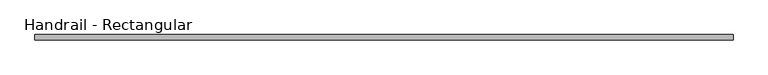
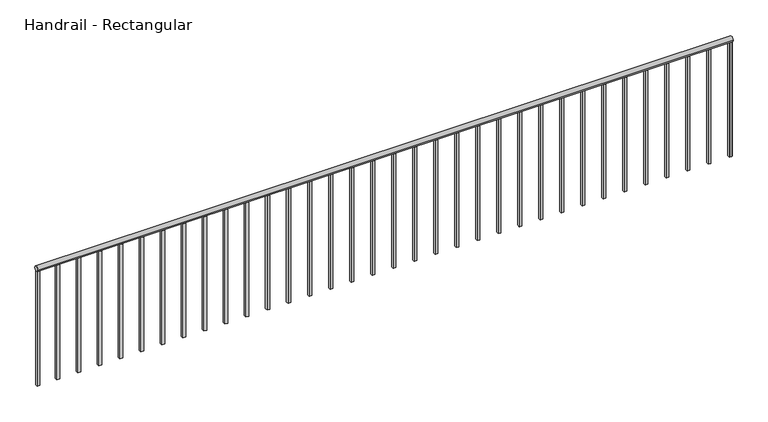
"""IFC4 building model written with IfcOpenShell, lengths in millimetres: railing geometry, Handrail - Rectangular."""

import ifcopenshell
import ifcopenshell.guid

model = None  # the IFC model being written
_history = None  # IfcOwnerHistory: only IFC2X3 demands one
_inside = {}  # id of a spatial element -> (the spatial element, [elements in it])
_under = {}  # id of a project, library or spatial element -> (it, [spatial elements below it])
_declared = {}  # id of a project -> (the project, [libraries it declares])
_typed = {}  # id of a type object -> (the type object, [elements of that type])
_made_of = {}  # id of a material, layer set ... -> (it, [elements and type objects made of it])


def new_model(schema):
    """Start an empty IFC model of exactly this schema.

    Asked for "IFC4X3", IfcOpenShell would pick the latest addendum, in which some entities
    have other attributes; the version numbers below select the first issue.
    IFC2X3 requires an IfcOwnerHistory on every rooted entity: one is made here for all.
    """
    global model, _history
    if schema == "IFC4X3":
        model = ifcopenshell.file(schema_version=(4, 3, 0, 0))
    else:
        model = ifcopenshell.file(schema=schema)
    _inside.clear()
    _under.clear()
    _declared.clear()
    _typed.clear()
    _made_of.clear()
    _history = None
    if model.schema == "IFC2X3":
        org = make("IfcOrganization", Name="unknown")
        user = make(
            "IfcPersonAndOrganization",
            ThePerson=make("IfcPerson", FamilyName="unknown"),
            TheOrganization=org,
        )
        app = make(
            "IfcApplication",
            ApplicationDeveloper=org,
            Version="unknown",
            ApplicationFullName="unknown",
            ApplicationIdentifier="unknown",
        )
        _history = make(
            "IfcOwnerHistory",
            OwningUser=user,
            OwningApplication=app,
            ChangeAction="ADDED",
            CreationDate=0,
        )
    return model


def make(cls, **values):
    """One entity of the class cls with the attributes given. An attribute that is None is left unset."""
    return model.create_entity(
        cls, **{name: value for name, value in values.items() if value is not None}
    )


def rooted(cls, **values):
    """An entity with a GlobalId (a new one), such as an element, a storey or a relation."""
    return make(cls, GlobalId=ifcopenshell.guid.new(), OwnerHistory=_history, **values)


def si_unit(unit_type, name, prefix=None):
    """IfcSIUnit, for example si_unit("LENGTHUNIT", "METRE", prefix="MILLI")."""
    return make("IfcSIUnit", UnitType=unit_type, Prefix=prefix, Name=name)


def assignment(units):
    """IfcUnitAssignment: the units of a project."""
    return None if units is None else make("IfcUnitAssignment", Units=units)


def point(xyz):
    """IfcCartesianPoint."""
    return None if xyz is None else make("IfcCartesianPoint", Coordinates=xyz)


def direction(xyz):
    """IfcDirection."""
    return None if xyz is None else make("IfcDirection", DirectionRatios=xyz)


def frame(location, z_axis=None, x_axis=None):
    """IfcAxis2Placement3D, a coordinate frame: its origin and axes. An axis left out is left unset."""
    return make(
        "IfcAxis2Placement3D",
        Location=point(location),
        Axis=direction(z_axis),
        RefDirection=direction(x_axis),
    )


def frame_2d(location, x_axis=None):
    """IfcAxis2Placement2D, a coordinate frame in the plane: its origin and x axis."""
    return make(
        "IfcAxis2Placement2D", Location=point(location), RefDirection=direction(x_axis)
    )


def origin():
    """The frame at (0, 0, 0) with its axes left unset."""
    return frame((0.0, 0.0, 0.0))


def place(relative_to, where):
    """IfcLocalPlacement: puts the frame where relative to a parent placement (None: the world)."""
    return make(
        "IfcLocalPlacement", PlacementRelTo=relative_to, RelativePlacement=where
    )


def context(
    kind, dimensions, precision=None, world=None, true_north=None, identifier=None
):
    """IfcGeometricRepresentationContext, for example the 3D "Model" context."""
    return make(
        "IfcGeometricRepresentationContext",
        ContextIdentifier=identifier,
        ContextType=kind,
        CoordinateSpaceDimension=dimensions,
        Precision=precision,
        WorldCoordinateSystem=world,
        TrueNorth=true_north,
    )


def project(units=None, contexts=None):
    """IfcProject with its units and contexts."""
    return rooted(
        "IfcProject",
        Name="project",
        RepresentationContexts=contexts,
        UnitsInContext=assignment(units),
    )


def spatial(cls, under=None, at=None, **own):
    """A site, building, storey or space (cls), placed at a placement, below another one or the project."""
    s = rooted(cls, ObjectPlacement=at, **own)
    if under is not None:
        _under.setdefault(under.id(), (under, []))[1].append(s)
    return s


def polyline(points):
    """IfcPolyline through the points."""
    return make("IfcPolyline", Points=[point(p) for p in points])


def circle_curve(where, radius):
    """IfcCircle in the frame where."""
    return make("IfcCircle", Position=where, Radius=radius)


def trimmed(basis, trim1, trim2, sense, master):
    """IfcTrimmedCurve: the piece of a basis curve between two trims."""
    return make(
        "IfcTrimmedCurve",
        BasisCurve=basis,
        Trim1=trim1,
        Trim2=trim2,
        SenseAgreement=sense,
        MasterRepresentation=master,
    )


def segment(curve, same_sense, transition):
    """IfcCompositeCurveSegment."""
    return make(
        "IfcCompositeCurveSegment",
        Transition=transition,
        SameSense=same_sense,
        ParentCurve=curve,
    )


def composite_curve(segments, self_intersect=None):
    """IfcCompositeCurve: segments joined end to end."""
    return make("IfcCompositeCurve", Segments=segments, SelfIntersect=self_intersect)


def outline(outer, holes=None, kind="AREA"):
    """IfcArbitraryClosedProfileDef: a profile drawn as a closed curve; with holes, ...WithVoids."""
    if holes is None:
        return make("IfcArbitraryClosedProfileDef", ProfileType=kind, OuterCurve=outer)
    return make(
        "IfcArbitraryProfileDefWithVoids",
        ProfileType=kind,
        OuterCurve=outer,
        InnerCurves=holes,
    )


def extrude(swept, where, along, depth):
    """IfcExtrudedAreaSolid: the profile swept, set in the frame where, extruded along a direction by depth."""
    return make(
        "IfcExtrudedAreaSolid",
        SweptArea=swept,
        Position=where,
        ExtrudedDirection=direction(along),
        Depth=depth,
    )


def shape(context_of_items, identifier, shape_type, items):
    """IfcShapeRepresentation: the items that make up one representation, for example the "Body"."""
    return make(
        "IfcShapeRepresentation",
        ContextOfItems=context_of_items,
        RepresentationIdentifier=identifier,
        RepresentationType=shape_type,
        Items=items,
    )


def source(mapping_origin, context_of_items, identifier, shape_type, items):
    """IfcRepresentationMap: a shape defined once, which mapped items show again and again."""
    return make(
        "IfcRepresentationMap",
        MappingOrigin=mapping_origin,
        MappedRepresentation=shape(context_of_items, identifier, shape_type, items),
    )


def transform(
    local_origin,
    x_axis=None,
    y_axis=None,
    z_axis=None,
    scale=None,
    scale2=None,
    scale3=None,
    uniform=True,
):
    """IfcCartesianTransformationOperator3D, or its non-uniform kind. x_axis, y_axis, z_axis: its Axis1, 2, 3."""
    if uniform:
        return make(
            "IfcCartesianTransformationOperator3D",
            Axis1=direction(x_axis),
            Axis2=direction(y_axis),
            LocalOrigin=point(local_origin),
            Scale=scale,
            Axis3=direction(z_axis),
        )
    return make(
        "IfcCartesianTransformationOperator3DnonUniform",
        Axis1=direction(x_axis),
        Axis2=direction(y_axis),
        LocalOrigin=point(local_origin),
        Scale=scale,
        Axis3=direction(z_axis),
        Scale2=scale2,
        Scale3=scale3,
    )


def mapped(mapping_source, mapping_target):
    """IfcMappedItem: shows the shape of a source again, moved by a transform."""
    return make(
        "IfcMappedItem", MappingSource=mapping_source, MappingTarget=mapping_target
    )


def made_of(thing, what):
    """Note that an element or type object is made of a material, layer set ...; save() writes the relation."""
    if what is not None:
        _made_of.setdefault(what.id(), (what, []))[1].append(thing)
    return thing


def element(
    cls,
    number,
    at=None,
    inside=None,
    cuts=None,
    type_object=None,
    material=None,
    context=None,
    identifier="Body",
    shape_type=None,
    held_by="IfcProductDefinitionShape",
    body=None,
    shapes=None,
    **own,
):
    """One element of the class cls, such as IfcWall. Its Tag is "e" and its number.

    at: its placement. inside: the storey or other place that contains it. cuts: it is an
    opening in that element (IfcRelVoidsElement). A single representation is given by context,
    identifier, shape_type and body (its items); several are given by shapes. held_by: the class
    of the entity that holds the representations. save() writes the other relations.
    """
    e = rooted(cls, Tag="e%d" % number, ObjectPlacement=at, **own)
    if body is not None:
        shapes = [shape(context, identifier, shape_type, body)]
    if shapes is not None:
        e.Representation = make(held_by, Representations=shapes)
    if inside is not None:
        _inside.setdefault(inside.id(), (inside, []))[1].append(e)
    if cuts is not None:
        rooted(
            "IfcRelVoidsElement", RelatingBuildingElement=cuts, RelatedOpeningElement=e
        )
    if type_object is not None:
        _typed.setdefault(type_object.id(), (type_object, []))[1].append(e)
    return made_of(e, material)


def aggregate(whole, parts):
    """IfcRelAggregates: a whole, such as a stair, and the parts it consists of."""
    return rooted("IfcRelAggregates", RelatingObject=whole, RelatedObjects=parts)


def save(model, path):
    """Write the relations noted so far, then the file.

    IfcRelAggregates (storeys below a building ...), IfcRelContainedInSpatialStructure (elements
    in a storey), IfcRelDefinesByType, IfcRelAssociatesMaterial and IfcRelDeclares: one each for
    every whole, place, type object, material and project.
    """
    for whole, parts in _under.values():
        aggregate(whole, parts)
    for where, things in _inside.values():
        rooted(
            "IfcRelContainedInSpatialStructure",
            RelatedElements=things,
            RelatingStructure=where,
        )
    for kind, things in _typed.values():
        rooted("IfcRelDefinesByType", RelatedObjects=things, RelatingType=kind)
    for what, things in _made_of.values():
        rooted("IfcRelAssociatesMaterial", RelatedObjects=things, RelatingMaterial=what)
    for by, libraries in _declared.values():
        rooted("IfcRelDeclares", RelatingContext=by, RelatedDefinitions=libraries)
    model.write(path)


def handrail_rectangular_e36991a0(model_context):
    return source(origin(), model_context, "Body", "SweptSolid", [
        extrude(outline(composite_curve([segment(trimmed(circle_curve(frame_2d((11944.8316867, 3943.35)), 19.05), [point((11963.8816867, 3943.35))], [point((11925.7816867, 3943.35))], False, "CARTESIAN"), True, "CONTINUOUS"), segment(trimmed(circle_curve(frame_2d((11944.8316867, 3943.35)), 19.05), [point((11925.7816867, 3943.35))], [point((11963.8816867, 3943.35))], False, "CARTESIAN"), True, "CONTINUOUS")], self_intersect=False)), frame((-11164.8589563, 0.0, 0.0), z_axis=(1.0, 0.0, 0.0), x_axis=(0.0, 1.0, 0.0)), (0.0, 0.0, 1.0), 5041.9),
        extrude(outline(polyline([(-6145.1839563, 11935.3066867), (-6145.1839563, 11954.3566867), (-6126.1339563, 11954.3566867), (-6126.1339563, 11935.3066867), (-6145.1839563, 11935.3066867)])), frame((0.0, 0.0, 3048.0), z_axis=(0.0, 0.0, 1.0), x_axis=(1.0, 0.0, 0.0)), (0.0, 0.0, 1.0), 876.3),
        extrude(outline(polyline([(-6297.5839563, 11935.3066867), (-6297.5839563, 11954.3566867), (-6278.5339563, 11954.3566867), (-6278.5339563, 11935.3066867), (-6297.5839563, 11935.3066867)])), frame((0.0, 0.0, 3048.0), z_axis=(0.0, 0.0, 1.0), x_axis=(1.0, 0.0, 0.0)), (0.0, 0.0, 1.0), 876.3),
        extrude(outline(polyline([(-6449.9839563, 11935.3066867), (-6449.9839563, 11954.3566867), (-6430.9339563, 11954.3566867), (-6430.9339563, 11935.3066867), (-6449.9839563, 11935.3066867)])), frame((0.0, 0.0, 3048.0), z_axis=(0.0, 0.0, 1.0), x_axis=(1.0, 0.0, 0.0)), (0.0, 0.0, 1.0), 876.3),
        extrude(outline(polyline([(-6602.3839563, 11935.3066867), (-6602.3839563, 11954.3566867), (-6583.3339563, 11954.3566867), (-6583.3339563, 11935.3066867), (-6602.3839563, 11935.3066867)])), frame((0.0, 0.0, 3048.0), z_axis=(0.0, 0.0, 1.0), x_axis=(1.0, 0.0, 0.0)), (0.0, 0.0, 1.0), 876.3),
        extrude(outline(polyline([(-6754.7839563, 11935.3066867), (-6754.7839563, 11954.3566867), (-6735.7339563, 11954.3566867), (-6735.7339563, 11935.3066867), (-6754.7839563, 11935.3066867)])), frame((0.0, 0.0, 3048.0), z_axis=(0.0, 0.0, 1.0), x_axis=(1.0, 0.0, 0.0)), (0.0, 0.0, 1.0), 876.3),
        extrude(outline(polyline([(-6907.1839563, 11935.3066867), (-6907.1839563, 11954.3566867), (-6888.1339563, 11954.3566867), (-6888.1339563, 11935.3066867), (-6907.1839563, 11935.3066867)])), frame((0.0, 0.0, 3048.0), z_axis=(0.0, 0.0, 1.0), x_axis=(1.0, 0.0, 0.0)), (0.0, 0.0, 1.0), 876.3),
        extrude(outline(polyline([(-7059.5839563, 11935.3066867), (-7059.5839563, 11954.3566867), (-7040.5339563, 11954.3566867), (-7040.5339563, 11935.3066867), (-7059.5839563, 11935.3066867)])), frame((0.0, 0.0, 3048.0), z_axis=(0.0, 0.0, 1.0), x_axis=(1.0, 0.0, 0.0)), (0.0, 0.0, 1.0), 876.3),
        extrude(outline(polyline([(-7211.9839563, 11935.3066867), (-7211.9839563, 11954.3566867), (-7192.9339563, 11954.3566867), (-7192.9339563, 11935.3066867), (-7211.9839563, 11935.3066867)])), frame((0.0, 0.0, 3048.0), z_axis=(0.0, 0.0, 1.0), x_axis=(1.0, 0.0, 0.0)), (0.0, 0.0, 1.0), 876.3),
        extrude(outline(polyline([(-7364.3839563, 11935.3066867), (-7364.3839563, 11954.3566867), (-7345.3339563, 11954.3566867), (-7345.3339563, 11935.3066867), (-7364.3839563, 11935.3066867)])), frame((0.0, 0.0, 3048.0), z_axis=(0.0, 0.0, 1.0), x_axis=(1.0, 0.0, 0.0)), (0.0, 0.0, 1.0), 876.3),
        extrude(outline(polyline([(-7516.7839563, 11935.3066867), (-7516.7839563, 11954.3566867), (-7497.7339563, 11954.3566867), (-7497.7339563, 11935.3066867), (-7516.7839563, 11935.3066867)])), frame((0.0, 0.0, 3048.0), z_axis=(0.0, 0.0, 1.0), x_axis=(1.0, 0.0, 0.0)), (0.0, 0.0, 1.0), 876.3),
        extrude(outline(polyline([(-7669.1839563, 11935.3066867), (-7669.1839563, 11954.3566867), (-7650.1339563, 11954.3566867), (-7650.1339563, 11935.3066867), (-7669.1839563, 11935.3066867)])), frame((0.0, 0.0, 3048.0), z_axis=(0.0, 0.0, 1.0), x_axis=(1.0, 0.0, 0.0)), (0.0, 0.0, 1.0), 876.3),
        extrude(outline(polyline([(-7821.5839563, 11935.3066867), (-7821.5839563, 11954.3566867), (-7802.5339563, 11954.3566867), (-7802.5339563, 11935.3066867), (-7821.5839563, 11935.3066867)])), frame((0.0, 0.0, 3048.0), z_axis=(0.0, 0.0, 1.0), x_axis=(1.0, 0.0, 0.0)), (0.0, 0.0, 1.0), 876.3),
        extrude(outline(polyline([(-7973.9839563, 11935.3066867), (-7973.9839563, 11954.3566867), (-7954.9339563, 11954.3566867), (-7954.9339563, 11935.3066867), (-7973.9839563, 11935.3066867)])), frame((0.0, 0.0, 3048.0), z_axis=(0.0, 0.0, 1.0), x_axis=(1.0, 0.0, 0.0)), (0.0, 0.0, 1.0), 876.3),
        extrude(outline(polyline([(-8126.3839563, 11935.3066867), (-8126.3839563, 11954.3566867), (-8107.3339563, 11954.3566867), (-8107.3339563, 11935.3066867), (-8126.3839563, 11935.3066867)])), frame((0.0, 0.0, 3048.0), z_axis=(0.0, 0.0, 1.0), x_axis=(1.0, 0.0, 0.0)), (0.0, 0.0, 1.0), 876.3),
        extrude(outline(polyline([(-8278.7839563, 11935.3066867), (-8278.7839563, 11954.3566867), (-8259.7339563, 11954.3566867), (-8259.7339563, 11935.3066867), (-8278.7839563, 11935.3066867)])), frame((0.0, 0.0, 3048.0), z_axis=(0.0, 0.0, 1.0), x_axis=(1.0, 0.0, 0.0)), (0.0, 0.0, 1.0), 876.3),
        extrude(outline(polyline([(-8431.1839563, 11935.3066867), (-8431.1839563, 11954.3566867), (-8412.1339563, 11954.3566867), (-8412.1339563, 11935.3066867), (-8431.1839563, 11935.3066867)])), frame((0.0, 0.0, 3048.0), z_axis=(0.0, 0.0, 1.0), x_axis=(1.0, 0.0, 0.0)), (0.0, 0.0, 1.0), 876.3),
        extrude(outline(polyline([(-8583.5839563, 11935.3066867), (-8583.5839563, 11954.3566867), (-8564.5339563, 11954.3566867), (-8564.5339563, 11935.3066867), (-8583.5839563, 11935.3066867)])), frame((0.0, 0.0, 3048.0), z_axis=(0.0, 0.0, 1.0), x_axis=(1.0, 0.0, 0.0)), (0.0, 0.0, 1.0), 876.3),
        extrude(outline(polyline([(-8735.9839563, 11935.3066867), (-8735.9839563, 11954.3566867), (-8716.9339563, 11954.3566867), (-8716.9339563, 11935.3066867), (-8735.9839563, 11935.3066867)])), frame((0.0, 0.0, 3048.0), z_axis=(0.0, 0.0, 1.0), x_axis=(1.0, 0.0, 0.0)), (0.0, 0.0, 1.0), 876.3),
        extrude(outline(polyline([(-8888.3839563, 11935.3066867), (-8888.3839563, 11954.3566867), (-8869.3339563, 11954.3566867), (-8869.3339563, 11935.3066867), (-8888.3839563, 11935.3066867)])), frame((0.0, 0.0, 3048.0), z_axis=(0.0, 0.0, 1.0), x_axis=(1.0, 0.0, 0.0)), (0.0, 0.0, 1.0), 876.3),
        extrude(outline(polyline([(-9040.7839563, 11935.3066867), (-9040.7839563, 11954.3566867), (-9021.7339563, 11954.3566867), (-9021.7339563, 11935.3066867), (-9040.7839563, 11935.3066867)])), frame((0.0, 0.0, 3048.0), z_axis=(0.0, 0.0, 1.0), x_axis=(1.0, 0.0, 0.0)), (0.0, 0.0, 1.0), 876.3),
        extrude(outline(polyline([(-9193.1839563, 11935.3066867), (-9193.1839563, 11954.3566867), (-9174.1339563, 11954.3566867), (-9174.1339563, 11935.3066867), (-9193.1839563, 11935.3066867)])), frame((0.0, 0.0, 3048.0), z_axis=(0.0, 0.0, 1.0), x_axis=(1.0, 0.0, 0.0)), (0.0, 0.0, 1.0), 876.3),
        extrude(outline(polyline([(-9345.5839563, 11935.3066867), (-9345.5839563, 11954.3566867), (-9326.5339563, 11954.3566867), (-9326.5339563, 11935.3066867), (-9345.5839563, 11935.3066867)])), frame((0.0, 0.0, 3048.0), z_axis=(0.0, 0.0, 1.0), x_axis=(1.0, 0.0, 0.0)), (0.0, 0.0, 1.0), 876.3),
        extrude(outline(polyline([(-9497.9839563, 11935.3066867), (-9497.9839563, 11954.3566867), (-9478.9339563, 11954.3566867), (-9478.9339563, 11935.3066867), (-9497.9839563, 11935.3066867)])), frame((0.0, 0.0, 3048.0), z_axis=(0.0, 0.0, 1.0), x_axis=(1.0, 0.0, 0.0)), (0.0, 0.0, 1.0), 876.3),
        extrude(outline(polyline([(-9650.3839563, 11935.3066867), (-9650.3839563, 11954.3566867), (-9631.3339563, 11954.3566867), (-9631.3339563, 11935.3066867), (-9650.3839563, 11935.3066867)])), frame((0.0, 0.0, 3048.0), z_axis=(0.0, 0.0, 1.0), x_axis=(1.0, 0.0, 0.0)), (0.0, 0.0, 1.0), 876.3),
        extrude(outline(polyline([(-9802.7839563, 11935.3066867), (-9802.7839563, 11954.3566867), (-9783.7339563, 11954.3566867), (-9783.7339563, 11935.3066867), (-9802.7839563, 11935.3066867)])), frame((0.0, 0.0, 3048.0), z_axis=(0.0, 0.0, 1.0), x_axis=(1.0, 0.0, 0.0)), (0.0, 0.0, 1.0), 876.3),
        extrude(outline(polyline([(-9955.1839563, 11935.3066867), (-9955.1839563, 11954.3566867), (-9936.1339563, 11954.3566867), (-9936.1339563, 11935.3066867), (-9955.1839563, 11935.3066867)])), frame((0.0, 0.0, 3048.0), z_axis=(0.0, 0.0, 1.0), x_axis=(1.0, 0.0, 0.0)), (0.0, 0.0, 1.0), 876.3),
        extrude(outline(polyline([(-10107.5839563, 11935.3066867), (-10107.5839563, 11954.3566867), (-10088.5339563, 11954.3566867), (-10088.5339563, 11935.3066867), (-10107.5839563, 11935.3066867)])), frame((0.0, 0.0, 3048.0), z_axis=(0.0, 0.0, 1.0), x_axis=(1.0, 0.0, 0.0)), (0.0, 0.0, 1.0), 876.3),
        extrude(outline(polyline([(-10259.9839563, 11935.3066867), (-10259.9839563, 11954.3566867), (-10240.9339563, 11954.3566867), (-10240.9339563, 11935.3066867), (-10259.9839563, 11935.3066867)])), frame((0.0, 0.0, 3048.0), z_axis=(0.0, 0.0, 1.0), x_axis=(1.0, 0.0, 0.0)), (0.0, 0.0, 1.0), 876.3),
        extrude(outline(polyline([(-10412.3839563, 11935.3066867), (-10412.3839563, 11954.3566867), (-10393.3339563, 11954.3566867), (-10393.3339563, 11935.3066867), (-10412.3839563, 11935.3066867)])), frame((0.0, 0.0, 3048.0), z_axis=(0.0, 0.0, 1.0), x_axis=(1.0, 0.0, 0.0)), (0.0, 0.0, 1.0), 876.3),
        extrude(outline(polyline([(-10564.7839563, 11935.3066867), (-10564.7839563, 11954.3566867), (-10545.7339563, 11954.3566867), (-10545.7339563, 11935.3066867), (-10564.7839563, 11935.3066867)])), frame((0.0, 0.0, 3048.0), z_axis=(0.0, 0.0, 1.0), x_axis=(1.0, 0.0, 0.0)), (0.0, 0.0, 1.0), 876.3),
        extrude(outline(polyline([(-10717.1839563, 11935.3066867), (-10717.1839563, 11954.3566867), (-10698.1339563, 11954.3566867), (-10698.1339563, 11935.3066867), (-10717.1839563, 11935.3066867)])), frame((0.0, 0.0, 3048.0), z_axis=(0.0, 0.0, 1.0), x_axis=(1.0, 0.0, 0.0)), (0.0, 0.0, 1.0), 876.3),
        extrude(outline(polyline([(-10869.5839563, 11935.3066867), (-10869.5839563, 11954.3566867), (-10850.5339563, 11954.3566867), (-10850.5339563, 11935.3066867), (-10869.5839563, 11935.3066867)])), frame((0.0, 0.0, 3048.0), z_axis=(0.0, 0.0, 1.0), x_axis=(1.0, 0.0, 0.0)), (0.0, 0.0, 1.0), 876.3),
        extrude(outline(polyline([(-11021.9839563, 11935.3066867), (-11021.9839563, 11954.3566867), (-11002.9339563, 11954.3566867), (-11002.9339563, 11935.3066867), (-11021.9839563, 11935.3066867)])), frame((0.0, 0.0, 3048.0), z_axis=(0.0, 0.0, 1.0), x_axis=(1.0, 0.0, 0.0)), (0.0, 0.0, 1.0), 876.3),
        extrude(outline(polyline([(-6142.0089563, 11935.3066867), (-6142.0089563, 11954.3566867), (-6122.9589563, 11954.3566867), (-6122.9589563, 11935.3066867), (-6142.0089563, 11935.3066867)])), frame((0.0, 0.0, 3048.0), z_axis=(0.0, 0.0, 1.0), x_axis=(1.0, 0.0, 0.0)), (0.0, 0.0, 1.0), 876.3),
        extrude(outline(polyline([(-11164.8589563, 11935.3066867), (-11164.8589563, 11954.3566867), (-11145.8089563, 11954.3566867), (-11145.8089563, 11935.3066867), (-11164.8589563, 11935.3066867)])), frame((0.0, 0.0, 3048.0), z_axis=(0.0, 0.0, 1.0), x_axis=(1.0, 0.0, 0.0)), (0.0, 0.0, 1.0), 876.3),
    ])


if __name__ == "__main__":
    model = new_model("IFC4")
    model_context = context("Model", 3, world=origin())
    ifc_project = project(units=[si_unit("LENGTHUNIT", "METRE", prefix="MILLI")], contexts=[model_context])
    site = spatial("IfcSite", under=ifc_project)
    building = spatial("IfcBuilding", under=site)
    placement = place(None, origin())
    handrail_rectangular_shape = handrail_rectangular_e36991a0(model_context)
    element("IfcRailing", 1, ObjectType="Handrail - Rectangular", at=placement, inside=building, context=model_context, shape_type="MappedRepresentation", body=[
        mapped(handrail_rectangular_shape, transform((0.0, 0.0, 0.0), x_axis=(1.0, 0.0, 0.0), y_axis=(0.0, 1.0, 0.0), z_axis=(0.0, 0.0, 1.0))),
    ])
    save(model, "model.ifc")
